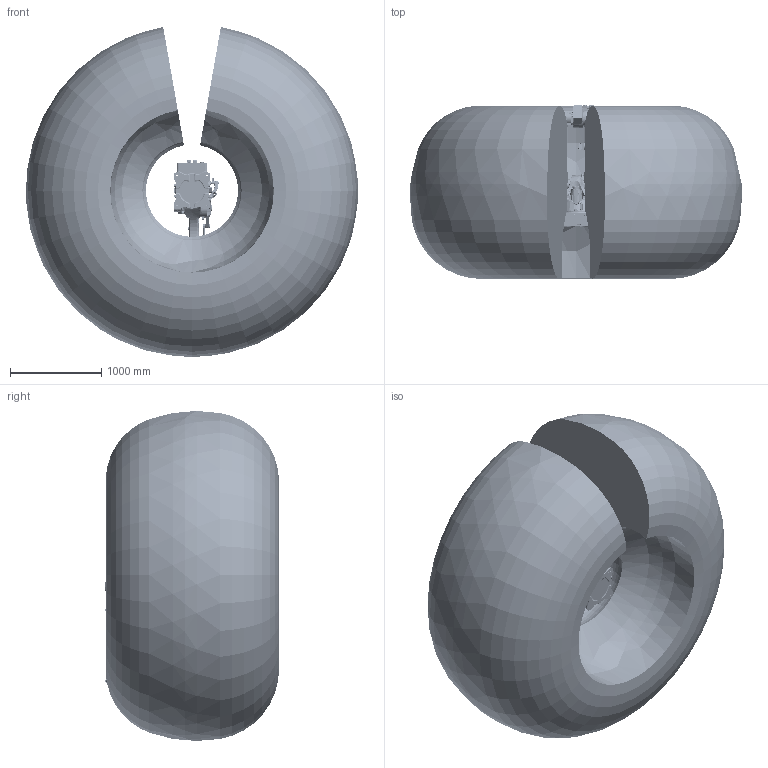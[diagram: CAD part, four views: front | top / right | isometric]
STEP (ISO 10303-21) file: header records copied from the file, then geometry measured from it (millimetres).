
FILE_DESCRIPTION((''),'2;1');
FILE_NAME('RB30-1-B_ASM','2024-07-03T09:59:55',('Administrator'),(''),'CREO PARAMETRIC BY PTC INC, 2018260','CREO PARAMETRIC BY PTC INC, 2018260','');
FILE_SCHEMA(('CONFIG_CONTROL_DESIGN','SHAPE_APPEARANCE_LAYERS_GROUPS'));
Length unit declared in the file: millimetre
Products named in the file (12): RB30-1-B_BASE; RB30-1-B_JOINT1; RB30-1-B_JOINT2; RB30-1-B_JOINT3; RB30-1-B_WRIST; RB30-1-B_JOINT4; RB30-1-B_ANGLE-BRACKET; RB30-1-B_VERTICAL-ROD; RB30-1-B_HORIZONTAL-ROD; RB30-1-B_RANGE; RB30-1-B_RANGE2; RB30-1-B_ASM
Assembly tree (11 placements, depth 2):
  RB30-1-B_ASM
    RB30-1-B_BASE
    RB30-1-B_JOINT1
    RB30-1-B_JOINT2
    RB30-1-B_JOINT3
    RB30-1-B_WRIST
    RB30-1-B_JOINT4
    RB30-1-B_ANGLE-BRACKET
    RB30-1-B_VERTICAL-ROD
    RB30-1-B_HORIZONTAL-ROD
    RB30-1-B_RANGE
    RB30-1-B_RANGE2
Bounding box: 3643.81 x 1912.14 x 3622.27 mm (x, y, z)
Volume: 13295330268.2 mm3; surface area: 47880695.4 mm2
Topology: 11 solids, 40 shells, 10322 faces, 26313 edges, 16101 vertices
Faces by surface type: cylinder 3596, plane 2867, torus 1566, bspline 1521, cone 444, sphere 324, extrusion 4
Entity records: 419306 total; most frequent: CARTESIAN_POINT 151807, ORIENTED_EDGE 52170, DIRECTION 48886, EDGE_CURVE 26085, AXIS2_PLACEMENT_3D 19371, VERTEX_POINT 16101, EDGE_LOOP 10766, CIRCLE 10549
